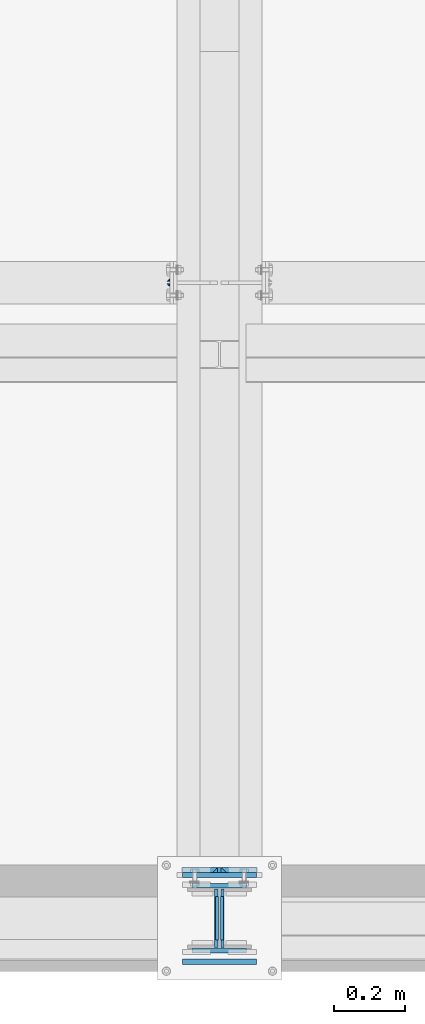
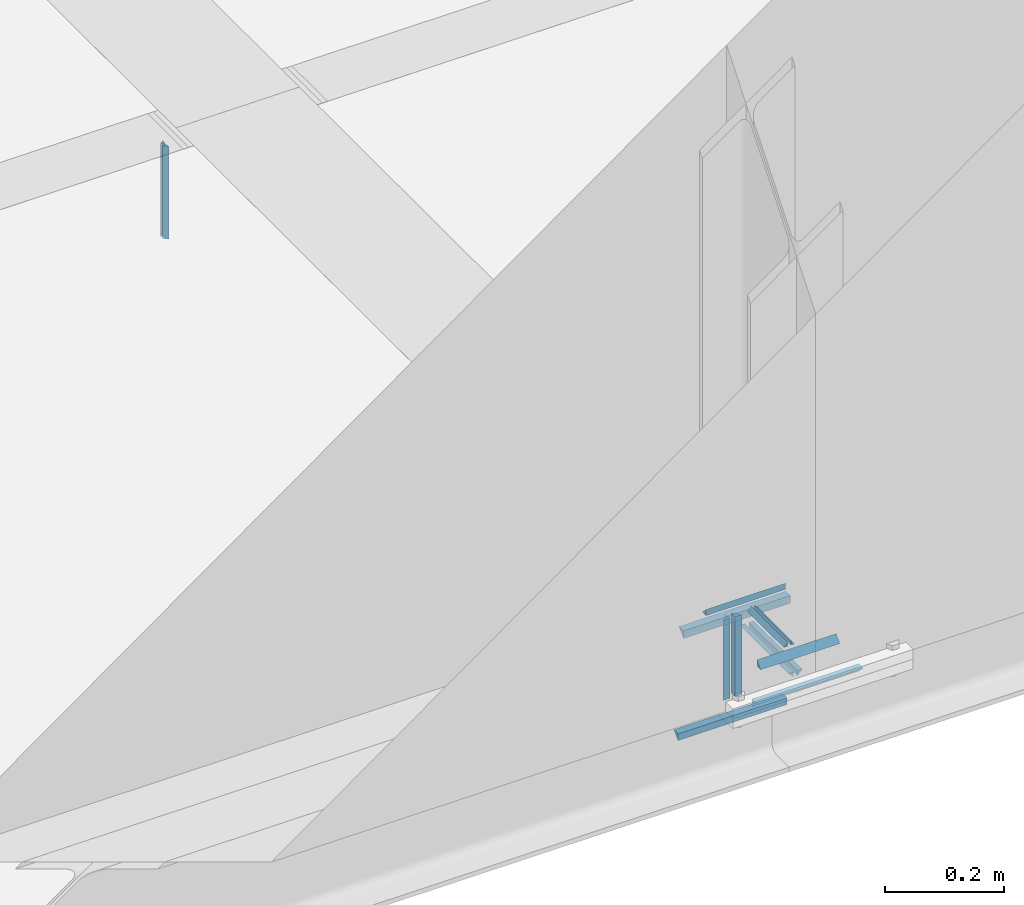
# One storey, part 14 of 66: 22 fasteners.
"""IFC4 building model written with IfcOpenShell, lengths in metres."""

from ifc_helpers import new_model, si_unit, frame, origin_with_axes, place, context, project, spatial, polyline, outline, extrude, type_object, element, save


model = new_model("IFC4")

# Units and contexts
model_context = context("Model", 3, precision=1e-05, world=origin_with_axes())
ifc_project = project(units=[si_unit("LENGTHUNIT", "METRE"), si_unit("AREAUNIT", "SQUARE_METRE"), si_unit("VOLUMEUNIT", "CUBIC_METRE"), si_unit("MASSUNIT", "GRAM", prefix="KILO"), si_unit("TIMEUNIT", "SECOND"), si_unit("PLANEANGLEUNIT", "RADIAN"), si_unit("SOLIDANGLEUNIT", "STERADIAN"), si_unit("THERMODYNAMICTEMPERATUREUNIT", "DEGREE_CELSIUS")], contexts=[model_context])

# Site, building, storey
placement_1 = place(None, origin_with_axes())
site = spatial("IfcSite", under=ifc_project, at=placement_1, Name="Italia", CompositionType="ELEMENT")
building = spatial("IfcBuilding", under=site, at=placement_1, Name="Uffici", CompositionType="ELEMENT")
storey_placement = place(None, frame((0.0, 0.0, 3.299999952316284), z_axis=(0.0, 0.0, 1.0), x_axis=(1.0, 0.0, 0.0)))
storey = spatial("IfcBuildingStorey", under=building, at=storey_placement, Name="Storey 1", CompositionType="ELEMENT", Elevation=3.299999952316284)

# Fasteners
fastener_type_1 = type_object("IfcFastenerType", Name="Collegamento -003_-002", PredefinedType="WELD")
placement_2 = place(placement_1, origin_with_axes())
fastener_1_placement = place(placement_2, origin_with_axes())
element("IfcFastener", 1, at=fastener_1_placement, inside=storey, type_object=fastener_type_1, Name="Collegamento -003_-002", context=model_context, shape_type="SweptSolid", body=[
    extrude(outline(polyline([(0.0, 0.0), (0.00792813, 0.00817347), (0.00792813, 0.0), (0.0, 0.0)])), frame((6.61505, 1.78569, 3.08475), z_axis=(0.0, 0.0, 1.0), x_axis=(0.0, 1.0, 0.0)), (0.0, 0.0, 1.0), 0.1905),
])
fastener_type_2 = type_object("IfcFastenerType", Name="Collegamento -003_-002", PredefinedType="WELD")
fastener_2_placement = place(placement_2, origin_with_axes())
element("IfcFastener", 2, at=fastener_2_placement, inside=storey, type_object=fastener_type_2, Name="Collegamento -003_-002", context=model_context, shape_type="SweptSolid", body=[
    extrude(outline(polyline([(0.0, 0.0), (-0.00792813, -0.00817347), (-0.00792813, 0.0), (0.0, 0.0)])), frame((6.61505, 1.80764, 3.27525), z_axis=(0.0, 0.0, -1.0), x_axis=(0.0, 1.0, 0.0)), (0.0, 0.0, 1.0), 0.1905),
])
fastener_type_3 = type_object("IfcFastenerType", Name="Collegamento -003_-002", PredefinedType="WELD")
fastener_3_placement = place(placement_2, origin_with_axes())
element("IfcFastener", 3, at=fastener_3_placement, inside=storey, type_object=fastener_type_3, Name="Collegamento -003_-002", context=model_context, shape_type="SweptSolid", body=[
    extrude(outline(polyline([(0.0, 0.0), (0.00792813, 0.00817347), (0.00792813, 0.0), (0.0, 0.0)])), frame((6.61505, 1.78569, 3.08475), z_axis=(0.0, 0.0, 1.0), x_axis=(0.0, 1.0, 0.0)), (0.0, 0.0, 1.0), 0.1905),
])
fastener_type_4 = type_object("IfcFastenerType", Name="Collegamento -003_-002", PredefinedType="WELD")
fastener_4_placement = place(placement_2, origin_with_axes())
element("IfcFastener", 4, at=fastener_4_placement, inside=storey, type_object=fastener_type_4, Name="Collegamento -003_-002", context=model_context, shape_type="SweptSolid", body=[
    extrude(outline(polyline([(0.0, 0.0), (-0.00792813, -0.00817347), (-0.00792813, 0.0), (0.0, 0.0)])), frame((6.61505, 1.80764, 3.27525), z_axis=(0.0, 0.0, -1.0), x_axis=(0.0, 1.0, 0.0)), (0.0, 0.0, 1.0), 0.1905),
])
fastener_type_5 = type_object("IfcFastenerType", Name="Collegamenti 0101_-001 0102_-002 0103_-003 0104_-004", PredefinedType="WELD")
fastener_5_placement = place(placement_2, origin_with_axes())
element("IfcFastener", 5, at=fastener_5_placement, inside=storey, type_object=fastener_type_5, Name="Collegamenti 0101_-001 0102_-002 0103_-003 0104_-004", context=model_context, shape_type="SweptSolid", body=[
    extrude(outline(polyline([(0.0, 0.0), (-0.0141733, 0.0137482), (0.0, 0.0137482), (0.0, 0.0)])), frame((6.86105, 0.12995, 3.0463), z_axis=(-1.0, 0.0, 0.0), x_axis=(0.0, -1.0, 0.0)), (0.0, 0.0, 1.0), 0.2121),
])
fastener_type_6 = type_object("IfcFastenerType", Name="Collegamenti 0101_-001 0102_-002 0103_-003 0104_-004", PredefinedType="WELD")
fastener_6_placement = place(placement_2, origin_with_axes())
element("IfcFastener", 6, at=fastener_6_placement, inside=storey, type_object=fastener_type_6, Name="Collegamenti 0101_-001 0102_-002 0103_-003 0104_-004", context=model_context, shape_type="SweptSolid", body=[
    extrude(outline(polyline([(0.0, 0.0), (0.0141734, -0.0137482), (0.0, -0.0137482), (0.0, 0.0)])), frame((6.7363, 0.12995, 3.09795), z_axis=(0.0, 0.0, 1.0), x_axis=(0.0, 1.0, 0.0)), (0.0, 0.0, 1.0), 0.1641),
])
fastener_type_7 = type_object("IfcFastenerType", Name="Collegamenti 0101_-001 0102_-002 0103_-003 0104_-004", PredefinedType="WELD")
fastener_7_placement = place(placement_2, origin_with_axes())
element("IfcFastener", 7, at=fastener_7_placement, inside=storey, type_object=fastener_type_7, Name="Collegamenti 0101_-001 0102_-002 0103_-003 0104_-004", context=model_context, shape_type="SweptSolid", body=[
    extrude(outline(polyline([(0.0, 0.0), (0.0141734, -0.0137482), (0.0, -0.0137482), (0.0, 0.0)])), frame((6.7737, 0.12995, 3.26205), z_axis=(0.0, 0.0, -1.0), x_axis=(0.0, 1.0, 0.0)), (0.0, 0.0, 1.0), 0.1641),
])
fastener_type_8 = type_object("IfcFastenerType", Name="Collegamenti 0101_-001 0102_-002 0103_-003 0104_-004", PredefinedType="WELD")
fastener_8_placement = place(placement_2, origin_with_axes())
element("IfcFastener", 8, at=fastener_8_placement, inside=storey, type_object=fastener_type_8, Name="Collegamenti 0101_-001 0102_-002 0103_-003 0104_-004", context=model_context, shape_type="SweptSolid", body=[
    extrude(outline(polyline([(0.0, 0.0), (-0.0141733, 0.0137482), (0.0, 0.0137482), (0.0, 0.0)])), frame((6.86105, 0.12995, 3.0463), z_axis=(-1.0, 0.0, 0.0), x_axis=(0.0, -1.0, 0.0)), (0.0, 0.0, 1.0), 0.2121),
])
fastener_type_9 = type_object("IfcFastenerType", Name="Collegamenti 0101_-001 0102_-002 0103_-003 0104_-004", PredefinedType="WELD")
fastener_9_placement = place(placement_2, origin_with_axes())
element("IfcFastener", 9, at=fastener_9_placement, inside=storey, type_object=fastener_type_9, Name="Collegamenti 0101_-001 0102_-002 0103_-003 0104_-004", context=model_context, shape_type="SweptSolid", body=[
    extrude(outline(polyline([(0.0, 0.0), (0.0141734, -0.0137482), (0.0, -0.0137482), (0.0, 0.0)])), frame((6.7363, 0.12995, 3.09795), z_axis=(0.0, 0.0, 1.0), x_axis=(0.0, 1.0, 0.0)), (0.0, 0.0, 1.0), 0.1641),
])
fastener_type_10 = type_object("IfcFastenerType", Name="Collegamenti 0101_-001 0102_-002 0103_-003 0104_-004", PredefinedType="WELD")
fastener_10_placement = place(placement_2, origin_with_axes())
element("IfcFastener", 10, at=fastener_10_placement, inside=storey, type_object=fastener_type_10, Name="Collegamenti 0101_-001 0102_-002 0103_-003 0104_-004", context=model_context, shape_type="SweptSolid", body=[
    extrude(outline(polyline([(0.0, 0.0), (0.0141734, -0.0137482), (0.0, -0.0137482), (0.0, 0.0)])), frame((6.7737, 0.12995, 3.26205), z_axis=(0.0, 0.0, -1.0), x_axis=(0.0, 1.0, 0.0)), (0.0, 0.0, 1.0), 0.1641),
])
fastener_type_11 = type_object("IfcFastenerType", Name="Collegamenti 0101_0201 0102_0202 0103_0203 0104_0204 0105_0205", PredefinedType="WELD")
fastener_11_placement = place(placement_2, origin_with_axes())
element("IfcFastener", 11, at=fastener_11_placement, inside=storey, type_object=fastener_type_11, Name="Collegamenti 0101_0201 0102_0202 0103_0203 0104_0204 0105_0205", context=model_context, shape_type="SweptSolid", body=[
    extrude(outline(polyline([(0.0, 0.0), (0.0127782, 0.0131733), (0.0127782, 0.0), (0.0, 0.0)])), frame((6.83205, 0.0982282, 3.31995), z_axis=(-1.0, 0.0, 0.0), x_axis=(0.0, -1.0, 0.0)), (0.0, 0.0, 1.0), 0.1541),
])
fastener_type_12 = type_object("IfcFastenerType", Name="Collegamenti 0101_0201 0102_0202 0103_0203 0104_0204 0105_0205", PredefinedType="WELD")
fastener_12_placement = place(placement_2, origin_with_axes())
element("IfcFastener", 12, at=fastener_12_placement, inside=storey, type_object=fastener_type_12, Name="Collegamenti 0101_0201 0102_0202 0103_0203 0104_0204 0105_0205", context=model_context, shape_type="SweptSolid", body=[
    extrude(outline(polyline([(0.0, 0.0), (0.0127782, 0.0131733), (0.0127782, 0.0), (0.0, 0.0)])), frame((6.67795, -0.0982282, 3.31995), z_axis=(1.0, 0.0, 0.0), x_axis=(0.0, 1.0, 0.0)), (0.0, 0.0, 1.0), 0.1541),
])
fastener_type_13 = type_object("IfcFastenerType", Name="Collegamenti 0101_0201 0102_0202 0103_0203 0104_0204 0105_0205", PredefinedType="WELD")
fastener_13_placement = place(placement_2, origin_with_axes())
element("IfcFastener", 13, at=fastener_13_placement, inside=storey, type_object=fastener_type_13, Name="Collegamenti 0101_0201 0102_0202 0103_0203 0104_0204 0105_0205", context=model_context, shape_type="SweptSolid", body=[
    extrude(outline(polyline([(0.0, 0.0), (0.00792789, 0.00817347), (0.00792789, 0.0), (0.0, 0.0)])), frame((6.76588, -0.06105, 3.31995), z_axis=(0.0, 1.0, 0.0), x_axis=(-1.0, 0.0, 0.0)), (0.0, 0.0, 1.0), 0.1221),
])
fastener_type_14 = type_object("IfcFastenerType", Name="Collegamenti 0101_0201 0102_0202 0103_0203 0104_0204 0105_0205", PredefinedType="WELD")
fastener_14_placement = place(placement_2, origin_with_axes())
element("IfcFastener", 14, at=fastener_14_placement, inside=storey, type_object=fastener_type_14, Name="Collegamenti 0101_0201 0102_0202 0103_0203 0104_0204 0105_0205", context=model_context, shape_type="SweptSolid", body=[
    extrude(outline(polyline([(0.0, 0.0), (0.00792789, 0.00817347), (0.00792789, 0.0), (0.0, 0.0)])), frame((6.74412, 0.06105, 3.31995), z_axis=(0.0, -1.0, 0.0), x_axis=(1.0, 0.0, 0.0)), (0.0, 0.0, 1.0), 0.1221),
])
fastener_type_15 = type_object("IfcFastenerType", Name="Collegamenti 0101_0201 0102_0202 0103_0203 0104_0204 0105_0205", PredefinedType="WELD")
fastener_15_placement = place(placement_2, origin_with_axes())
element("IfcFastener", 15, at=fastener_15_placement, inside=storey, type_object=fastener_type_15, Name="Collegamenti 0101_0201 0102_0202 0103_0203 0104_0204 0105_0205", context=model_context, shape_type="SweptSolid", body=[
    extrude(outline(polyline([(0.0, 0.0), (0.0127782, 0.0131733), (0.0127782, 0.0), (0.0, 0.0)])), frame((6.83205, 0.0982282, 3.31995), z_axis=(-1.0, 0.0, 0.0), x_axis=(0.0, -1.0, 0.0)), (0.0, 0.0, 1.0), 0.1541),
])
fastener_type_16 = type_object("IfcFastenerType", Name="Collegamenti 0101_0201 0102_0202 0103_0203 0104_0204 0105_0205", PredefinedType="WELD")
fastener_16_placement = place(placement_2, origin_with_axes())
element("IfcFastener", 16, at=fastener_16_placement, inside=storey, type_object=fastener_type_16, Name="Collegamenti 0101_0201 0102_0202 0103_0203 0104_0204 0105_0205", context=model_context, shape_type="SweptSolid", body=[
    extrude(outline(polyline([(0.0, 0.0), (0.0127782, 0.0131733), (0.0127782, 0.0), (0.0, 0.0)])), frame((6.67795, -0.0982282, 3.31995), z_axis=(1.0, 0.0, 0.0), x_axis=(0.0, 1.0, 0.0)), (0.0, 0.0, 1.0), 0.1541),
])
fastener_type_17 = type_object("IfcFastenerType", Name="Collegamenti 0101_0201 0102_0202 0103_0203 0104_0204 0105_0205", PredefinedType="WELD")
fastener_17_placement = place(placement_2, origin_with_axes())
element("IfcFastener", 17, at=fastener_17_placement, inside=storey, type_object=fastener_type_17, Name="Collegamenti 0101_0201 0102_0202 0103_0203 0104_0204 0105_0205", context=model_context, shape_type="SweptSolid", body=[
    extrude(outline(polyline([(0.0, 0.0), (0.00792789, 0.00817347), (0.00792789, 0.0), (0.0, 0.0)])), frame((6.76588, -0.06105, 3.31995), z_axis=(0.0, 1.0, 0.0), x_axis=(-1.0, 0.0, 0.0)), (0.0, 0.0, 1.0), 0.1221),
])
fastener_type_18 = type_object("IfcFastenerType", Name="Collegamenti 0101_0201 0102_0202 0103_0203 0104_0204 0105_0205", PredefinedType="WELD")
fastener_18_placement = place(placement_2, origin_with_axes())
element("IfcFastener", 18, at=fastener_18_placement, inside=storey, type_object=fastener_type_18, Name="Collegamenti 0101_0201 0102_0202 0103_0203 0104_0204 0105_0205", context=model_context, shape_type="SweptSolid", body=[
    extrude(outline(polyline([(0.0, 0.0), (0.00792789, 0.00817347), (0.00792789, 0.0), (0.0, 0.0)])), frame((6.74412, 0.06105, 3.31995), z_axis=(0.0, -1.0, 0.0), x_axis=(1.0, 0.0, 0.0)), (0.0, 0.0, 1.0), 0.1221),
])
fastener_type_19 = type_object("IfcFastenerType", Name="Collegamenti 0101_0201 0102_0202 0103_0203 0104_0204 0105_0205", PredefinedType="WELD")
fastener_19_placement = place(placement_2, origin_with_axes())
element("IfcFastener", 19, at=fastener_19_placement, inside=storey, type_object=fastener_type_19, Name="Collegamenti 0101_0201 0102_0202 0103_0203 0104_0204 0105_0205", context=model_context, shape_type="SweptSolid", body=[
    extrude(outline(polyline([(0.0, 0.0), (0.0153519, -0.0158267), (0.0153519, 0.0), (0.0, 0.0)])), frame((6.85905, 0.130402, 3.27995), z_axis=(-1.0, 0.0, 0.0), x_axis=(0.0, -1.0, 0.0)), (0.0, 0.0, 1.0), 0.2081),
])
fastener_type_20 = type_object("IfcFastenerType", Name="Collegamenti 0101_0201 0102_0202 0103_0203 0104_0204 0105_0205", PredefinedType="WELD")
fastener_20_placement = place(placement_2, origin_with_axes())
element("IfcFastener", 20, at=fastener_20_placement, inside=storey, type_object=fastener_type_20, Name="Collegamenti 0101_0201 0102_0202 0103_0203 0104_0204 0105_0205", context=model_context, shape_type="SweptSolid", body=[
    extrude(outline(polyline([(0.0, 0.0), (0.0153519, -0.0158267), (0.0153519, 0.0), (0.0, 0.0)])), frame((6.65095, -0.130402, 3.27995), z_axis=(1.0, 0.0, 0.0), x_axis=(0.0, 1.0, 0.0)), (0.0, 0.0, 1.0), 0.2081),
])
fastener_type_21 = type_object("IfcFastenerType", Name="Collegamenti 0101_0201 0102_0202 0103_0203 0104_0204 0105_0205", PredefinedType="WELD")
fastener_21_placement = place(placement_2, origin_with_axes())
element("IfcFastener", 21, at=fastener_21_placement, inside=storey, type_object=fastener_type_21, Name="Collegamenti 0101_0201 0102_0202 0103_0203 0104_0204 0105_0205", context=model_context, shape_type="SweptSolid", body=[
    extrude(outline(polyline([(0.0, 0.0), (0.00953197, -0.00982666), (0.00953197, 0.0), (0.0, 0.0)])), frame((6.76833, -0.08205, 3.27995), z_axis=(0.0, 1.0, 0.0), x_axis=(-1.0, 0.0, 0.0)), (0.0, 0.0, 1.0), 0.1641),
])
fastener_type_22 = type_object("IfcFastenerType", Name="Collegamenti 0101_0201 0102_0202 0103_0203 0104_0204 0105_0205", PredefinedType="WELD")
fastener_22_placement = place(placement_2, origin_with_axes())
element("IfcFastener", 22, at=fastener_22_placement, inside=storey, type_object=fastener_type_22, Name="Collegamenti 0101_0201 0102_0202 0103_0203 0104_0204 0105_0205", context=model_context, shape_type="SweptSolid", body=[
    extrude(outline(polyline([(0.0, 0.0), (0.00953197, -0.00982666), (0.00953197, 0.0), (0.0, 0.0)])), frame((6.74167, 0.08205, 3.27995), z_axis=(0.0, -1.0, 0.0), x_axis=(1.0, 0.0, 0.0)), (0.0, 0.0, 1.0), 0.1641),
])

save(model, "model.ifc")
